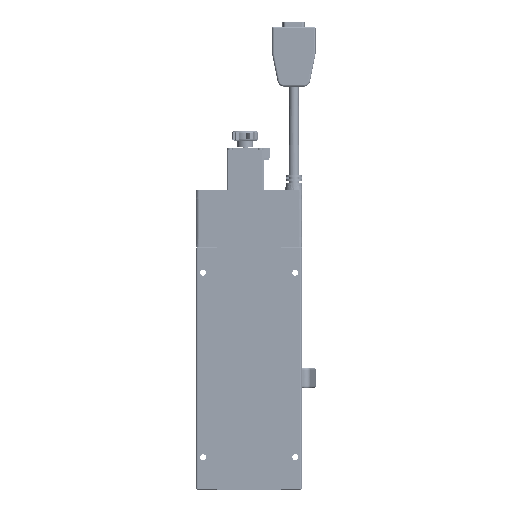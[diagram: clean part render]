
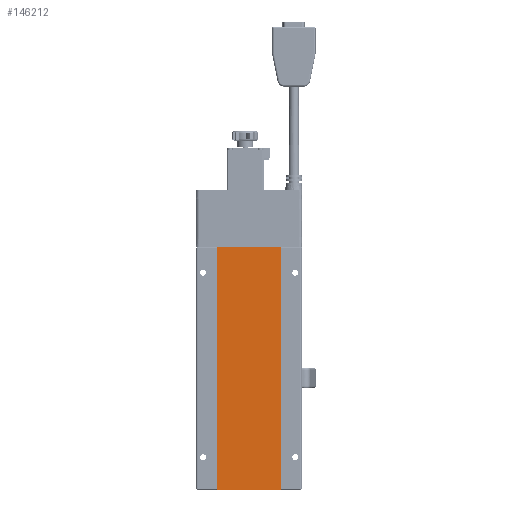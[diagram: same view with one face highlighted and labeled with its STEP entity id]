
A CAD part, front view. The second image highlights one B-rep face of the part: STEP entity #146212.
In plain terms, the highlighted planar face has unit normal (0, -1, 0).
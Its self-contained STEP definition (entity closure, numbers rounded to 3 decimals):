
#12285 = ORIENTED_EDGE ( 'NONE', *, *, #309912, .T. ) ;
#16460 = B_SPLINE_CURVE_WITH_KNOTS ( 'NONE', 3,
 ( #176769, #124429, #76810, #85870 ),
 .UNSPECIFIED., .F., .F.,
 ( 4, 4 ),
 ( 0., 1. ),
 .UNSPECIFIED. ) ;
#43151 = CARTESIAN_POINT ( 'NONE',  ( -24.3, 0.5, 184.8 ) ) ;
#43889 = VERTEX_POINT ( 'NONE', #119364 ) ;
#46873 = CARTESIAN_POINT ( 'NONE',  ( 24.3, 0.5, 0.2 ) ) ;
#52100 = ORIENTED_EDGE ( 'NONE', *, *, #159842, .T. ) ;
#58383 = ORIENTED_EDGE ( 'NONE', *, *, #186383, .T. ) ;
#66805 = EDGE_LOOP ( 'NONE', ( #161725, #58383, #12285, #52100 ) ) ;
#71575 = CARTESIAN_POINT ( 'NONE',  ( 24.3, 0.5, 184.8 ) ) ;
#76810 = CARTESIAN_POINT ( 'NONE',  ( -8.1, 0.5, 184.8 ) ) ;
#85870 = CARTESIAN_POINT ( 'NONE',  ( -24.3, 0.5, 184.8 ) ) ;
#104184 = VERTEX_POINT ( 'NONE', #145778 ) ;
#114533 = CARTESIAN_POINT ( 'NONE',  ( 24.3, 0.5, 0.2 ) ) ;
#119364 = CARTESIAN_POINT ( 'NONE',  ( -24.3, 0.5, 184.8 ) ) ;
#124429 = CARTESIAN_POINT ( 'NONE',  ( 8.1, 0.5, 184.8 ) ) ;
#144613 = CARTESIAN_POINT ( 'NONE',  ( -24.3, 0.5, 61.733 ) ) ;
#145778 = CARTESIAN_POINT ( 'NONE',  ( 24.3, 0.5, 184.8 ) ) ;
#146212 = ADVANCED_FACE ( 'NONE', ( #238442 ), #163810, .F. ) ;
#149927 = B_SPLINE_CURVE_WITH_KNOTS ( 'NONE', 3,
 ( #43151, #216112, #144613, #312968 ),
 .UNSPECIFIED., .F., .F.,
 ( 4, 4 ),
 ( 0., 1. ),
 .UNSPECIFIED. ) ;
#159842 = EDGE_CURVE ( 'NONE', #43889, #279489, #149927, .T. ) ;
#160787 = B_SPLINE_CURVE_WITH_KNOTS ( 'NONE', 3,
 ( #114533, #239907, #308247, #71575 ),
 .UNSPECIFIED., .F., .F.,
 ( 4, 4 ),
 ( 0., 1. ),
 .UNSPECIFIED. ) ;
#161725 = ORIENTED_EDGE ( 'NONE', *, *, #180838, .T. ) ;
#163810 = PLANE ( 'NONE',  #256078 ) ;
#176769 = CARTESIAN_POINT ( 'NONE',  ( 24.3, 0.5, 184.8 ) ) ;
#180838 = EDGE_CURVE ( 'NONE', #279489, #229045, #295834, .T. ) ;
#184492 = DIRECTION ( 'NONE',  ( 0., 1., 0. ) ) ;
#186383 = EDGE_CURVE ( 'NONE', #229045, #104184, #160787, .T. ) ;
#192857 = CARTESIAN_POINT ( 'NONE',  ( -8.1, 0.5, 0.2 ) ) ;
#216112 = CARTESIAN_POINT ( 'NONE',  ( -24.3, 0.5, 123.267 ) ) ;
#229045 = VERTEX_POINT ( 'NONE', #271816 ) ;
#238442 = FACE_OUTER_BOUND ( 'NONE', #66805, .T. ) ;
#239907 = CARTESIAN_POINT ( 'NONE',  ( 24.3, 0.5, 61.733 ) ) ;
#242091 = CARTESIAN_POINT ( 'NONE',  ( -24.3, 0.5, 0.2 ) ) ;
#256078 = AXIS2_PLACEMENT_3D ( 'NONE', #305178, #184492, #259122 ) ;
#259122 = DIRECTION ( 'NONE',  ( 1., 0., 0. ) ) ;
#259644 = CARTESIAN_POINT ( 'NONE',  ( -24.3, 0.5, 0.2 ) ) ;
#271816 = CARTESIAN_POINT ( 'NONE',  ( 24.3, 0.5, 0.2 ) ) ;
#279489 = VERTEX_POINT ( 'NONE', #259644 ) ;
#295834 = B_SPLINE_CURVE_WITH_KNOTS ( 'NONE', 3,
 ( #242091, #192857, #311965, #46873 ),
 .UNSPECIFIED., .F., .F.,
 ( 4, 4 ),
 ( 0., 1. ),
 .UNSPECIFIED. ) ;
#305178 = CARTESIAN_POINT ( 'NONE',  ( -24.3, 0.5, 184.8 ) ) ;
#308247 = CARTESIAN_POINT ( 'NONE',  ( 24.3, 0.5, 123.267 ) ) ;
#309912 = EDGE_CURVE ( 'NONE', #104184, #43889, #16460, .T. ) ;
#311965 = CARTESIAN_POINT ( 'NONE',  ( 8.1, 0.5, 0.2 ) ) ;
#312968 = CARTESIAN_POINT ( 'NONE',  ( -24.3, 0.5, 0.2 ) ) ;
